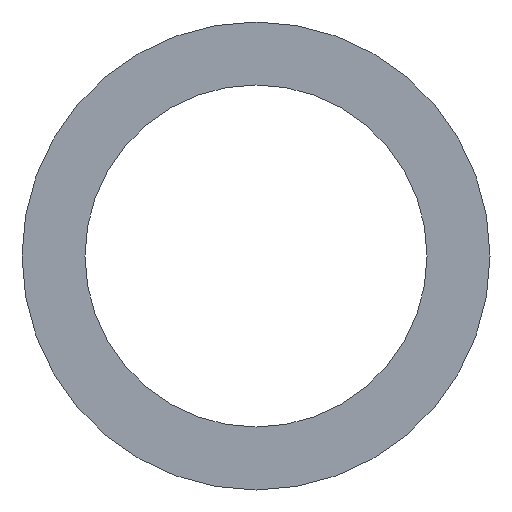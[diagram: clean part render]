
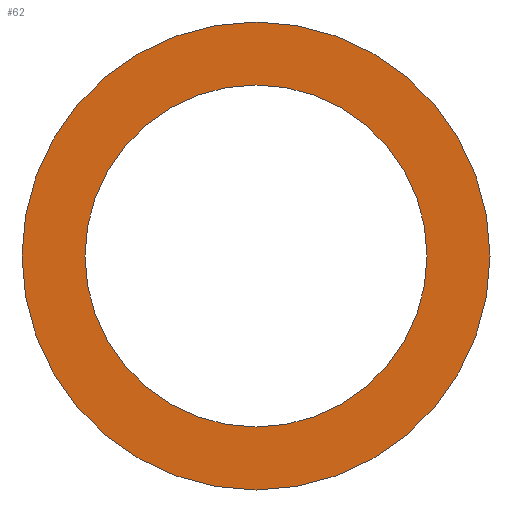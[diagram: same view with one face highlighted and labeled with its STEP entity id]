
A CAD part, front view. The second image highlights one B-rep face of the part: STEP entity #62.
In plain terms, the highlighted planar face has unit normal (0, -1, 0).
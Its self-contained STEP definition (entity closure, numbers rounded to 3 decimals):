
#20=PLANE('',#83);
#26=ORIENTED_EDGE('',*,*,#30,.T.);
#27=ORIENTED_EDGE('',*,*,#32,.F.);
#30=EDGE_CURVE('',#34,#34,#38,.T.);
#32=EDGE_CURVE('',#36,#36,#40,.T.);
#34=VERTEX_POINT('',#106);
#36=VERTEX_POINT('',#111);
#38=CIRCLE('',#78,369.5);
#40=CIRCLE('',#81,505.5);
#46=EDGE_LOOP('',(#26));
#47=EDGE_LOOP('',(#27));
#54=FACE_BOUND('',#46,.T.);
#55=FACE_BOUND('',#47,.T.);
#62=ADVANCED_FACE('',(#54,#55),#20,.F.);
#78=AXIS2_PLACEMENT_3D('',#105,#89,#90);
#81=AXIS2_PLACEMENT_3D('',#110,#95,#96);
#83=AXIS2_PLACEMENT_3D('',#114,#99,#100);
#89=DIRECTION('',(0.,1.,0.));
#90=DIRECTION('',(1.,0.,0.));
#95=DIRECTION('',(0.,1.,0.));
#96=DIRECTION('',(1.,0.,0.));
#99=DIRECTION('',(0.,1.,0.));
#100=DIRECTION('',(0.,0.,1.));
#105=CARTESIAN_POINT('',(0.,-1.5,0.));
#106=CARTESIAN_POINT('',(369.5,-1.5,0.));
#110=CARTESIAN_POINT('',(0.,-1.5,0.));
#111=CARTESIAN_POINT('',(505.5,-1.5,0.));
#114=CARTESIAN_POINT('',(0.,-1.5,0.));
